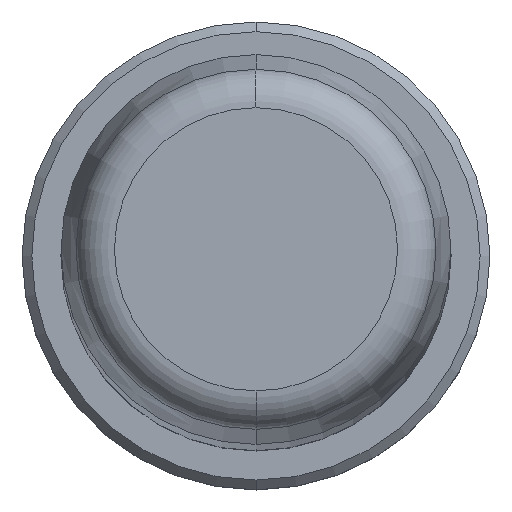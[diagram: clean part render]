
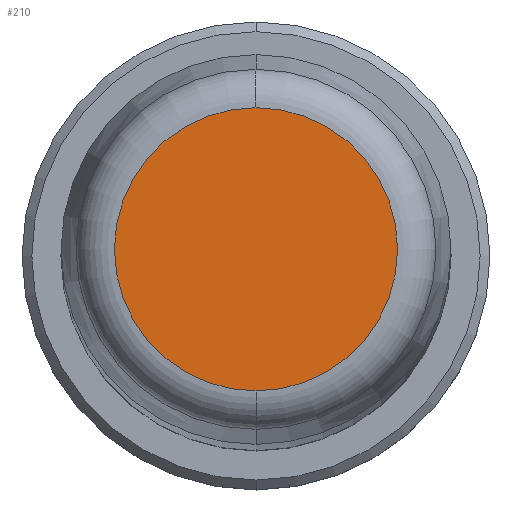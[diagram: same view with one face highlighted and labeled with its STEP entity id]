
A CAD part, top view. The second image highlights one B-rep face of the part: STEP entity #210.
In plain terms, the highlighted planar face has unit normal (0, 0, 1).
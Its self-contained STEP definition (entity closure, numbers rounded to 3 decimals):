
#1=CARTESIAN_POINT('',(0.,0.,200.));
#2=DIRECTION('',(0.,0.,-1.));
#3=DIRECTION('',(0.,-1.,0.));
#4=AXIS2_PLACEMENT_3D('',#1,#2,#3);
#6=CARTESIAN_POINT('',(0.,0.,200.));
#7=DIRECTION('',(0.,0.,-1.));
#8=DIRECTION('',(0.,1.,0.));
#9=AXIS2_PLACEMENT_3D('',#6,#7,#8);
#183=CARTESIAN_POINT('',(0.,-7.264,200.));
#184=CARTESIAN_POINT('',(0.,7.264,200.));
#185=VERTEX_POINT('',#183);
#186=VERTEX_POINT('',#184);
#199=CARTESIAN_POINT('',(0.,0.,200.));
#200=DIRECTION('',(0.,0.,1.));
#201=DIRECTION('',(0.,-1.,0.));
#202=AXIS2_PLACEMENT_3D('',#199,#200,#201);
#203=PLANE('',#202);
#205=ORIENTED_EDGE('',*,*,#204,.T.);
#207=ORIENTED_EDGE('',*,*,#206,.T.);
#208=EDGE_LOOP('',(#205,#207));
#209=FACE_OUTER_BOUND('',#208,.F.);
#210=ADVANCED_FACE('',(#209),#203,.T.);
#5=CIRCLE('',#4,7.264);
#10=CIRCLE('',#9,7.264);
#204=EDGE_CURVE('',#185,#186,#5,.T.);
#206=EDGE_CURVE('',#186,#185,#10,.T.);
